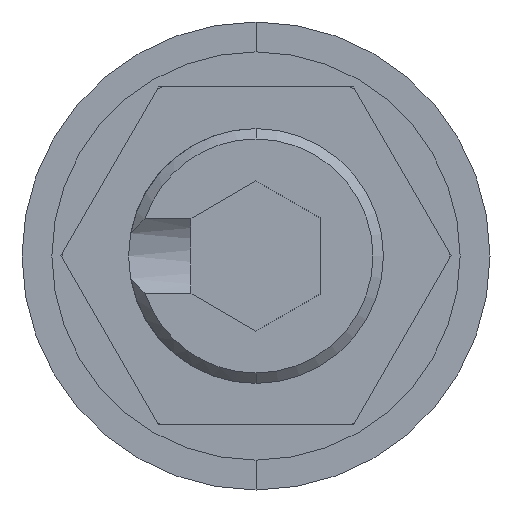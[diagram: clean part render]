
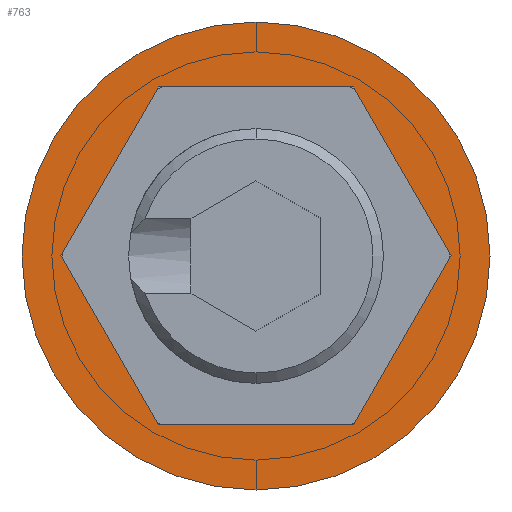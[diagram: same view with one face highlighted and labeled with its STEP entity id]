
A CAD part, front view. The second image highlights one B-rep face of the part: STEP entity #763.
In plain terms, the highlighted planar face has unit normal (0, -1, 0).
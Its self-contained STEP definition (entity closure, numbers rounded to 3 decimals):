
#55 = AXIS2_PLACEMENT_3D ( 'NONE', #1770, #1779, #1976 ) ;
#58 = CIRCLE ( 'NONE', #55, 4.5 ) ;
#84 = LINE ( 'NONE', #1623, #87 ) ;
#87 = VECTOR ( 'NONE', #1680, 1000. ) ;
#137 = LINE ( 'NONE', #304, #2085 ) ;
#138 = ORIENTED_EDGE ( 'NONE', *, *, #1636, .T. ) ;
#147 = LINE ( 'NONE', #853, #1000 ) ;
#296 = DIRECTION ( 'NONE',  ( -0.5, 0., 0.866 ) ) ;
#304 = CARTESIAN_POINT ( 'NONE',  ( 3.753, 0., 0. ) ) ;
#345 = EDGE_CURVE ( 'NONE', #966, #1829, #590, .T. ) ;
#406 = EDGE_CURVE ( 'NONE', #1741, #1946, #147, .T. ) ;
#431 = ORIENTED_EDGE ( 'NONE', *, *, #1282, .F. ) ;
#484 = ORIENTED_EDGE ( 'NONE', *, *, #947, .F. ) ;
#590 = LINE ( 'NONE', #858, #610 ) ;
#610 = VECTOR ( 'NONE', #845, 1000. ) ;
#667 = DIRECTION ( 'NONE',  ( 0.5, 0., 0.866 ) ) ;
#675 = VERTEX_POINT ( 'NONE', #1091 ) ;
#717 = CARTESIAN_POINT ( 'NONE',  ( 1.876, 0., 3.25 ) ) ;
#763 = ADVANCED_FACE ( 'NONE', ( #1044, #1615 ), #1148, .T. ) ;
#830 = VERTEX_POINT ( 'NONE', #1354 ) ;
#845 = DIRECTION ( 'NONE',  ( 1., 0., 0. ) ) ;
#853 = CARTESIAN_POINT ( 'NONE',  ( -1.876, 0., 3.25 ) ) ;
#858 = CARTESIAN_POINT ( 'NONE',  ( -1.876, 0., -3.25 ) ) ;
#868 = VERTEX_POINT ( 'NONE', #1434 ) ;
#945 = DIRECTION ( 'NONE',  ( -0.5, 0., -0.866 ) ) ;
#947 = EDGE_CURVE ( 'NONE', #1946, #966, #84, .T. ) ;
#959 = VERTEX_POINT ( 'NONE', #1691 ) ;
#966 = VERTEX_POINT ( 'NONE', #1702 ) ;
#971 = EDGE_CURVE ( 'NONE', #675, #959, #58, .T. ) ;
#1000 = VECTOR ( 'NONE', #945, 1000. ) ;
#1024 = CARTESIAN_POINT ( 'NONE',  ( -1.876, 0., 3.25 ) ) ;
#1044 = FACE_BOUND ( 'NONE', #2153, .T. ) ;
#1091 = CARTESIAN_POINT ( 'NONE',  ( 0., 0., 4.5 ) ) ;
#1138 = CARTESIAN_POINT ( 'NONE',  ( 0., 0., 0. ) ) ;
#1148 = PLANE ( 'NONE',  #2264 ) ;
#1151 = DIRECTION ( 'NONE',  ( 0., -1., 0. ) ) ;
#1154 = DIRECTION ( 'NONE',  ( 0., 0., -1. ) ) ;
#1170 = CARTESIAN_POINT ( 'NONE',  ( 1.876, 0., -3.25 ) ) ;
#1240 = CARTESIAN_POINT ( 'NONE',  ( 1.876, 0., -3.25 ) ) ;
#1282 = EDGE_CURVE ( 'NONE', #830, #868, #137, .T. ) ;
#1354 = CARTESIAN_POINT ( 'NONE',  ( 3.753, 0., 0. ) ) ;
#1434 = CARTESIAN_POINT ( 'NONE',  ( 1.876, 0., 3.25 ) ) ;
#1435 = VECTOR ( 'NONE', #667, 1000. ) ;
#1498 = LINE ( 'NONE', #1170, #1435 ) ;
#1534 = EDGE_LOOP ( 'NONE', ( #138, #1907 ) ) ;
#1615 = FACE_OUTER_BOUND ( 'NONE', #1534, .T. ) ;
#1623 = CARTESIAN_POINT ( 'NONE',  ( -3.753, 0., 0. ) ) ;
#1635 = VECTOR ( 'NONE', #1873, 1000. ) ;
#1636 = EDGE_CURVE ( 'NONE', #959, #675, #2201, .T. ) ;
#1647 = ORIENTED_EDGE ( 'NONE', *, *, #406, .F. ) ;
#1674 = ORIENTED_EDGE ( 'NONE', *, *, #1860, .F. ) ;
#1680 = DIRECTION ( 'NONE',  ( 0.5, 0., -0.866 ) ) ;
#1686 = AXIS2_PLACEMENT_3D ( 'NONE', #1753, #1766, #1797 ) ;
#1691 = CARTESIAN_POINT ( 'NONE',  ( 0., 0., -4.5 ) ) ;
#1702 = CARTESIAN_POINT ( 'NONE',  ( -1.876, 0., -3.25 ) ) ;
#1741 = VERTEX_POINT ( 'NONE', #1024 ) ;
#1753 = CARTESIAN_POINT ( 'NONE',  ( 0., 0., 0. ) ) ;
#1761 = ORIENTED_EDGE ( 'NONE', *, *, #345, .F. ) ;
#1766 = DIRECTION ( 'NONE',  ( 0., -1., 0. ) ) ;
#1770 = CARTESIAN_POINT ( 'NONE',  ( 0., 0., 0. ) ) ;
#1779 = DIRECTION ( 'NONE',  ( 0., -1., 0. ) ) ;
#1797 = DIRECTION ( 'NONE',  ( 0., 0., -1. ) ) ;
#1811 = EDGE_CURVE ( 'NONE', #868, #1741, #1925, .T. ) ;
#1829 = VERTEX_POINT ( 'NONE', #1240 ) ;
#1860 = EDGE_CURVE ( 'NONE', #1829, #830, #1498, .T. ) ;
#1873 = DIRECTION ( 'NONE',  ( -1., 0., 0. ) ) ;
#1907 = ORIENTED_EDGE ( 'NONE', *, *, #971, .T. ) ;
#1918 = CARTESIAN_POINT ( 'NONE',  ( -3.753, 0., 0. ) ) ;
#1925 = LINE ( 'NONE', #717, #1635 ) ;
#1946 = VERTEX_POINT ( 'NONE', #1918 ) ;
#1976 = DIRECTION ( 'NONE',  ( 0., 0., -1. ) ) ;
#2085 = VECTOR ( 'NONE', #296, 1000. ) ;
#2153 = EDGE_LOOP ( 'NONE', ( #1761, #484, #1647, #2232, #431, #1674 ) ) ;
#2201 = CIRCLE ( 'NONE', #1686, 4.5 ) ;
#2232 = ORIENTED_EDGE ( 'NONE', *, *, #1811, .F. ) ;
#2264 = AXIS2_PLACEMENT_3D ( 'NONE', #1138, #1151, #1154 ) ;
